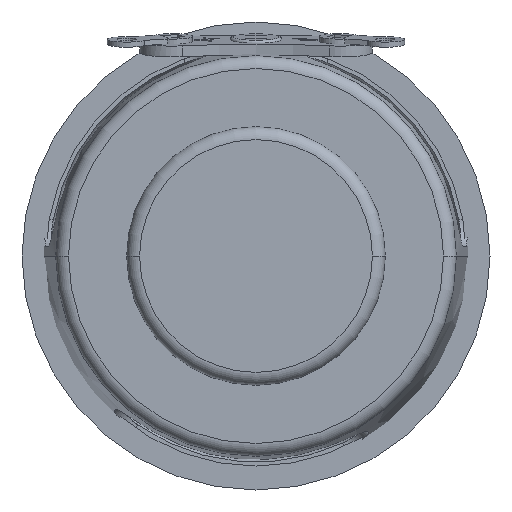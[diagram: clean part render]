
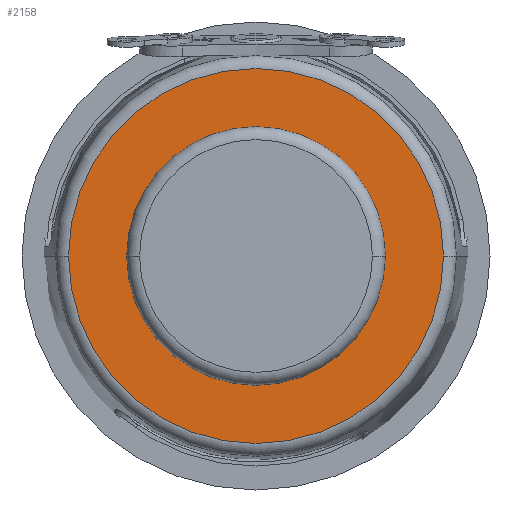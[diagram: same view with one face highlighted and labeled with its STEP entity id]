
A CAD part, front view. The second image highlights one B-rep face of the part: STEP entity #2158.
In plain terms, the highlighted planar face has unit normal (0, -1, 0).
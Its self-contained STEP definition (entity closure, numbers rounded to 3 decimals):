
#899=CARTESIAN_POINT('',(0.,-0.5,0.));
#900=DIRECTION('',(0.,-1.,0.));
#901=DIRECTION('',(1.,0.,0.));
#902=AXIS2_PLACEMENT_3D('',#899,#900,#901);
#923=CARTESIAN_POINT('',(0.,-0.5,0.));
#924=DIRECTION('',(0.,1.,0.));
#925=DIRECTION('',(1.,0.,0.));
#926=AXIS2_PLACEMENT_3D('',#923,#924,#925);
#931=CARTESIAN_POINT('',(0.,-0.5,0.));
#932=DIRECTION('',(0.,-1.,0.));
#933=DIRECTION('',(1.,0.,0.));
#934=AXIS2_PLACEMENT_3D('',#931,#932,#933);
#939=CARTESIAN_POINT('',(0.,-0.5,0.));
#940=DIRECTION('',(0.,-1.,0.));
#941=DIRECTION('',(-1.,0.,0.));
#942=AXIS2_PLACEMENT_3D('',#939,#940,#941);
#1505=CARTESIAN_POINT('',(10.,-0.5,0.));
#1506=CARTESIAN_POINT('',(-10.,-0.5,0.));
#1507=VERTEX_POINT('',#1505);
#1508=VERTEX_POINT('',#1506);
#1517=CARTESIAN_POINT('',(14.5,-0.5,0.));
#1518=VERTEX_POINT('',#1517);
#1519=CARTESIAN_POINT('',(-14.5,-0.5,0.));
#1520=VERTEX_POINT('',#1519);
#2143=CARTESIAN_POINT('',(0.,-0.5,0.));
#2144=DIRECTION('',(0.,-1.,0.));
#2145=DIRECTION('',(-1.,0.,0.));
#2146=AXIS2_PLACEMENT_3D('',#2143,#2144,#2145);
#2147=PLANE('',#2146);
#2148=ORIENTED_EDGE('',*,*,#2108,.F.);
#2149=ORIENTED_EDGE('',*,*,#2131,.T.);
#2150=EDGE_LOOP('',(#2148,#2149));
#2151=FACE_OUTER_BOUND('',#2150,.F.);
#2153=ORIENTED_EDGE('',*,*,#2152,.T.);
#2155=ORIENTED_EDGE('',*,*,#2154,.T.);
#2156=EDGE_LOOP('',(#2153,#2155));
#2157=FACE_BOUND('',#2156,.F.);
#2158=ADVANCED_FACE('',(#2151,#2157),#2147,.T.);
#903=CIRCLE('',#902,14.5);
#927=CIRCLE('',#926,14.5);
#935=CIRCLE('',#934,10.);
#943=CIRCLE('',#942,10.);
#2108=EDGE_CURVE('',#1518,#1520,#903,.T.);
#2131=EDGE_CURVE('',#1518,#1520,#927,.T.);
#2152=EDGE_CURVE('',#1507,#1508,#935,.T.);
#2154=EDGE_CURVE('',#1508,#1507,#943,.T.);
